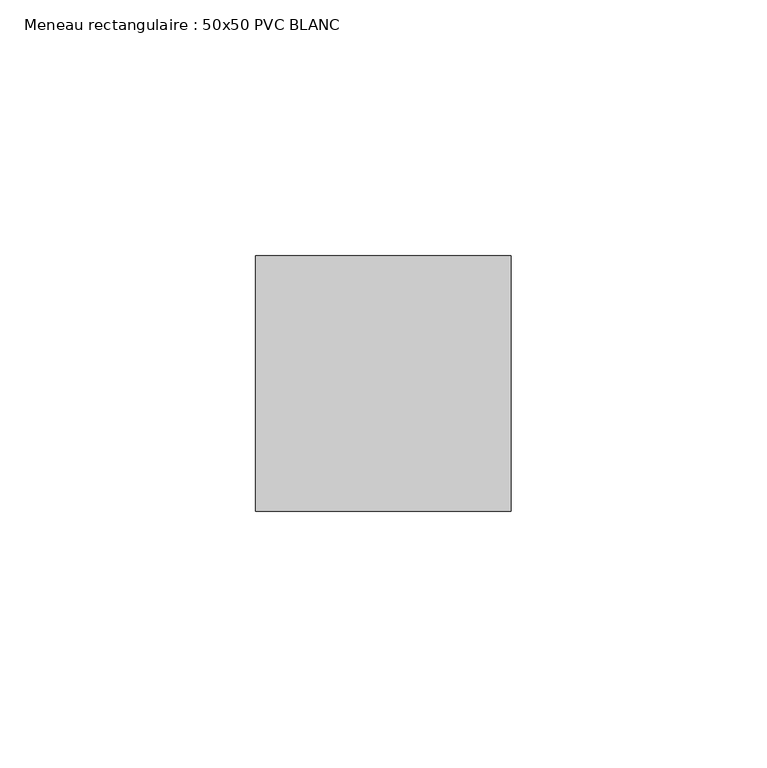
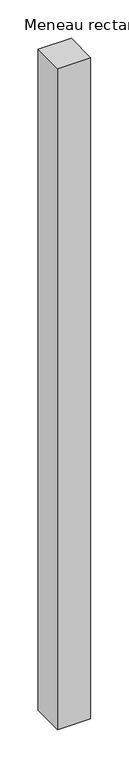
"""IFC4 building model written with IfcOpenShell, lengths in millimetres: member geometry, Meneau rectangulaire : 50x50 PVC BLANC."""

from ifc_helpers import new_model, si_unit, frame, origin, place, context, project, spatial, polyline, outline, extrude, source, transform, mapped, element, save


def meneau_rectangulaire_50x50_pvc_blanc_d8978a06(model_context):
    return source(origin(), model_context, "Body", "SweptSolid", [
        extrude(outline(polyline([(0.0, 0.0), (0.0, -50.0), (-50.0, -50.0), (-50.0, 0.0), (0.0, 0.0)])), frame((0.0, 0.0, -1049.0251734), z_axis=(0.0, 0.0, 1.0), x_axis=(1.0, 0.0, 0.0)), (0.0, 0.0, 1.0), 1049.0251734),
    ])


if __name__ == "__main__":
    model = new_model("IFC4")
    model_context = context("Model", 3, world=origin())
    ifc_project = project(units=[si_unit("LENGTHUNIT", "METRE", prefix="MILLI")], contexts=[model_context])
    site = spatial("IfcSite", under=ifc_project)
    building = spatial("IfcBuilding", under=site)
    placement = place(None, origin())
    meneau_rectangulaire_50x50_pvc_blanc_shape = meneau_rectangulaire_50x50_pvc_blanc_d8978a06(model_context)
    element("IfcMember", 1, ObjectType="Meneau rectangulaire : 50x50 PVC BLANC", at=placement, inside=building, context=model_context, shape_type="MappedRepresentation", body=[
        mapped(meneau_rectangulaire_50x50_pvc_blanc_shape, transform((0.0, 0.0, 0.0), x_axis=(1.0, 0.0, 0.0), y_axis=(0.0, 1.0, 0.0), z_axis=(0.0, 0.0, 1.0))),
    ])
    save(model, "model.ifc")
